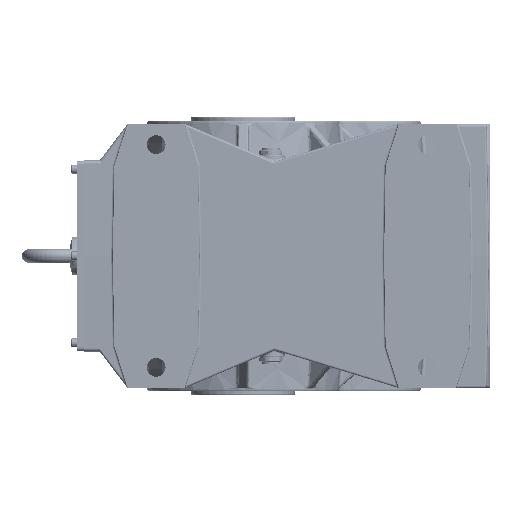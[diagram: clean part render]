
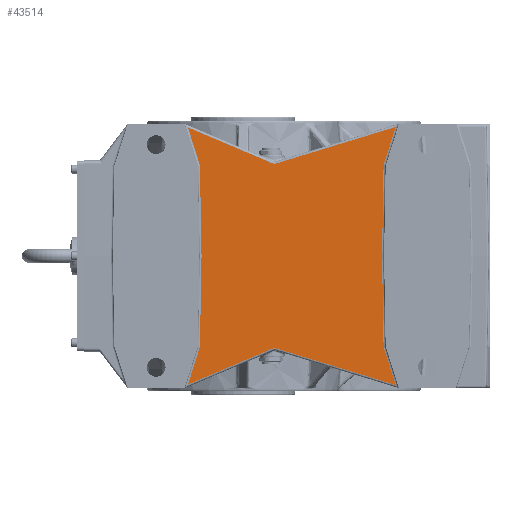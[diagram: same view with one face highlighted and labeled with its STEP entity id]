
A CAD part, left-side view. The second image highlights one B-rep face of the part: STEP entity #43514.
In plain terms, the highlighted planar face has unit normal (-1, 0, 0).
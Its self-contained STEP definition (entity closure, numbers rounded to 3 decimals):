
#35031=CARTESIAN_POINT('',(-225.0,79.172,-184.692));
#35032=VERTEX_POINT('',#35031);
#35040=CARTESIAN_POINT('',(-225.0,62.36,-131.6));
#35041=VERTEX_POINT('',#35040);
#35042=CARTESIAN_POINT('',(-225.0,79.172,-184.692));
#35043=DIRECTION('',(0.0,-0.302,0.953));
#35044=VECTOR('',#35043,55.69);
#35045=LINE('',#35042,#35044);
#35046=EDGE_CURVE('',#35032,#35041,#35045,.T.);
#41177=CARTESIAN_POINT('',(-225.,-42.78,-132.926));
#41178=VERTEX_POINT('',#41177);
#41186=CARTESIAN_POINT('',(-225.,-42.78,-132.926));
#41187=DIRECTION('',(0.,0.921,-0.391));
#41188=VECTOR('',#41187,132.484);
#41189=LINE('',#41186,#41188);
#41190=EDGE_CURVE('',#41178,#35032,#41189,.T.);
#41202=CARTESIAN_POINT('',(-225.,-46.878,-132.711));
#41203=VERTEX_POINT('',#41202);
#41211=CARTESIAN_POINT('',(-225.,-45.124,-138.449));
#41212=DIRECTION('',(-1.0,0.,0.));
#41213=DIRECTION('',(0.,0.052,0.999));
#41214=AXIS2_PLACEMENT_3D('',#41211,#41212,#41213);
#41215=CIRCLE('',#41214,6.);
#41216=EDGE_CURVE('',#41203,#41178,#41215,.T.);
#41236=CARTESIAN_POINT('',(-225.,-219.416,-185.461));
#41237=VERTEX_POINT('',#41236);
#41245=CARTESIAN_POINT('',(-225.,-219.416,-185.461));
#41246=DIRECTION('',(0.,0.956,0.292));
#41247=VECTOR('',#41246,180.421);
#41248=LINE('',#41245,#41247);
#41249=EDGE_CURVE('',#41237,#41203,#41248,.T.);
#42404=CARTESIAN_POINT('',(-225.,-202.36,-131.6));
#42405=VERTEX_POINT('',#42404);
#42413=CARTESIAN_POINT('',(-225.,-202.36,-131.6));
#42414=DIRECTION('',(0.0,-0.302,-0.953));
#42415=VECTOR('',#42414,56.498);
#42416=LINE('',#42413,#42415);
#42417=EDGE_CURVE('',#42405,#41237,#42416,.T.);
#43146=CARTESIAN_POINT('',(-225.0,79.172,184.692));
#43147=VERTEX_POINT('',#43146);
#43155=CARTESIAN_POINT('',(-225.,-42.78,132.926));
#43156=VERTEX_POINT('',#43155);
#43157=CARTESIAN_POINT('',(-225.0,79.172,184.692));
#43158=DIRECTION('',(0.,-0.921,-0.391));
#43159=VECTOR('',#43158,132.484);
#43160=LINE('',#43157,#43159);
#43161=EDGE_CURVE('',#43147,#43156,#43160,.T.);
#43218=CARTESIAN_POINT('',(-225.,-46.878,132.711));
#43219=VERTEX_POINT('',#43218);
#43237=CARTESIAN_POINT('',(-225.,-45.124,138.449));
#43238=DIRECTION('',(-1.0,0.,0.));
#43239=DIRECTION('',(0.,0.052,-0.999));
#43240=AXIS2_PLACEMENT_3D('',#43237,#43238,#43239);
#43241=CIRCLE('',#43240,6.);
#43242=EDGE_CURVE('',#43156,#43219,#43241,.T.);
#43252=CARTESIAN_POINT('',(-225.,-219.416,185.461));
#43253=VERTEX_POINT('',#43252);
#43270=CARTESIAN_POINT('',(-225.,-46.878,132.711));
#43271=DIRECTION('',(0.,-0.956,0.292));
#43272=VECTOR('',#43271,180.421);
#43273=LINE('',#43270,#43272);
#43274=EDGE_CURVE('',#43219,#43253,#43273,.T.);
#43419=CARTESIAN_POINT('',(-225.,-350.0,0.0));
#43420=DIRECTION('',(-1.0,0.0,0.0));
#43421=DIRECTION('',(0.0,0.0,1.0));
#43422=AXIS2_PLACEMENT_3D('',#43419,#43420,#43421);
#43423=PLANE('',#43422);
#43424=ORIENTED_EDGE('',*,*,#41249,.F.);
#43425=ORIENTED_EDGE('',*,*,#42417,.F.);
#43426=CARTESIAN_POINT('',(-225.,-201.988,-129.324));
#43427=VERTEX_POINT('',#43426);
#43428=CARTESIAN_POINT('',(-225.,-209.987,-129.185));
#43429=DIRECTION('',(-1.0,0.,0.));
#43430=DIRECTION('',(0.,0.987,-0.161));
#43431=AXIS2_PLACEMENT_3D('',#43428,#43429,#43430);
#43432=CIRCLE('',#43431,8.);
#43433=EDGE_CURVE('',#43427,#42405,#43432,.T.);
#43434=ORIENTED_EDGE('',*,*,#43433,.F.);
#43435=CARTESIAN_POINT('',(-225.,-199.73,0.));
#43436=VERTEX_POINT('',#43435);
#43437=CARTESIAN_POINT('',(-225.,-199.73,0.));
#43438=DIRECTION('',(0.0,-0.017,-1.));
#43439=VECTOR('',#43438,129.344);
#43440=LINE('',#43437,#43439);
#43441=EDGE_CURVE('',#43436,#43427,#43440,.T.);
#43442=ORIENTED_EDGE('',*,*,#43441,.F.);
#43443=CARTESIAN_POINT('',(-225.,-201.988,129.324));
#43444=VERTEX_POINT('',#43443);
#43445=CARTESIAN_POINT('',(-225.,-201.988,129.324));
#43446=DIRECTION('',(0.0,0.017,-1.));
#43447=VECTOR('',#43446,129.344);
#43448=LINE('',#43445,#43447);
#43449=EDGE_CURVE('',#43444,#43436,#43448,.T.);
#43450=ORIENTED_EDGE('',*,*,#43449,.F.);
#43451=CARTESIAN_POINT('',(-225.,-202.36,131.6));
#43452=VERTEX_POINT('',#43451);
#43453=CARTESIAN_POINT('',(-225.,-209.987,129.185));
#43454=DIRECTION('',(-1.0,0.,0.));
#43455=DIRECTION('',(0.,0.987,0.161));
#43456=AXIS2_PLACEMENT_3D('',#43453,#43454,#43455);
#43457=CIRCLE('',#43456,8.);
#43458=EDGE_CURVE('',#43452,#43444,#43457,.T.);
#43459=ORIENTED_EDGE('',*,*,#43458,.F.);
#43460=CARTESIAN_POINT('',(-225.,-219.416,185.461));
#43461=DIRECTION('',(0.0,0.302,-0.953));
#43462=VECTOR('',#43461,56.498);
#43463=LINE('',#43460,#43462);
#43464=EDGE_CURVE('',#43253,#43452,#43463,.T.);
#43465=ORIENTED_EDGE('',*,*,#43464,.F.);
#43466=ORIENTED_EDGE('',*,*,#43274,.F.);
#43467=ORIENTED_EDGE('',*,*,#43242,.F.);
#43468=ORIENTED_EDGE('',*,*,#43161,.F.);
#43469=CARTESIAN_POINT('',(-225.0,62.36,131.6));
#43470=VERTEX_POINT('',#43469);
#43471=CARTESIAN_POINT('',(-225.0,62.36,131.6));
#43472=DIRECTION('',(0.0,0.302,0.953));
#43473=VECTOR('',#43472,55.69);
#43474=LINE('',#43471,#43473);
#43475=EDGE_CURVE('',#43470,#43147,#43474,.T.);
#43476=ORIENTED_EDGE('',*,*,#43475,.F.);
#43477=CARTESIAN_POINT('',(-225.0,61.988,129.324));
#43478=VERTEX_POINT('',#43477);
#43479=CARTESIAN_POINT('',(-225.0,69.987,129.185));
#43480=DIRECTION('',(-1.0,0.,0.));
#43481=DIRECTION('',(0.,-0.987,0.161));
#43482=AXIS2_PLACEMENT_3D('',#43479,#43480,#43481);
#43483=CIRCLE('',#43482,8.0);
#43484=EDGE_CURVE('',#43478,#43470,#43483,.T.);
#43485=ORIENTED_EDGE('',*,*,#43484,.F.);
#43486=CARTESIAN_POINT('',(-225.0,59.73,0.));
#43487=VERTEX_POINT('',#43486);
#43488=CARTESIAN_POINT('',(-225.0,59.73,0.));
#43489=DIRECTION('',(0.0,0.017,1.));
#43490=VECTOR('',#43489,129.344);
#43491=LINE('',#43488,#43490);
#43492=EDGE_CURVE('',#43487,#43478,#43491,.T.);
#43493=ORIENTED_EDGE('',*,*,#43492,.F.);
#43494=CARTESIAN_POINT('',(-225.0,61.988,-129.324));
#43495=VERTEX_POINT('',#43494);
#43496=CARTESIAN_POINT('',(-225.0,61.988,-129.324));
#43497=DIRECTION('',(0.0,-0.017,1.));
#43498=VECTOR('',#43497,129.344);
#43499=LINE('',#43496,#43498);
#43500=EDGE_CURVE('',#43495,#43487,#43499,.T.);
#43501=ORIENTED_EDGE('',*,*,#43500,.F.);
#43502=CARTESIAN_POINT('',(-225.0,69.987,-129.185));
#43503=DIRECTION('',(-1.0,0.,0.));
#43504=DIRECTION('',(0.,-0.987,-0.161));
#43505=AXIS2_PLACEMENT_3D('',#43502,#43503,#43504);
#43506=CIRCLE('',#43505,8.0);
#43507=EDGE_CURVE('',#35041,#43495,#43506,.T.);
#43508=ORIENTED_EDGE('',*,*,#43507,.F.);
#43509=ORIENTED_EDGE('',*,*,#35046,.F.);
#43510=ORIENTED_EDGE('',*,*,#41190,.F.);
#43511=ORIENTED_EDGE('',*,*,#41216,.F.);
#43512=EDGE_LOOP('',(#43424,#43425,#43434,#43442,#43450,#43459,#43465,#43466,#43467,#43468,#43476,#43485,#43493,#43501,#43508,#43509,#43510,#43511));
#43513=FACE_OUTER_BOUND('',#43512,.T.);
#43514=ADVANCED_FACE('',(#43513),#43423,.T.);
